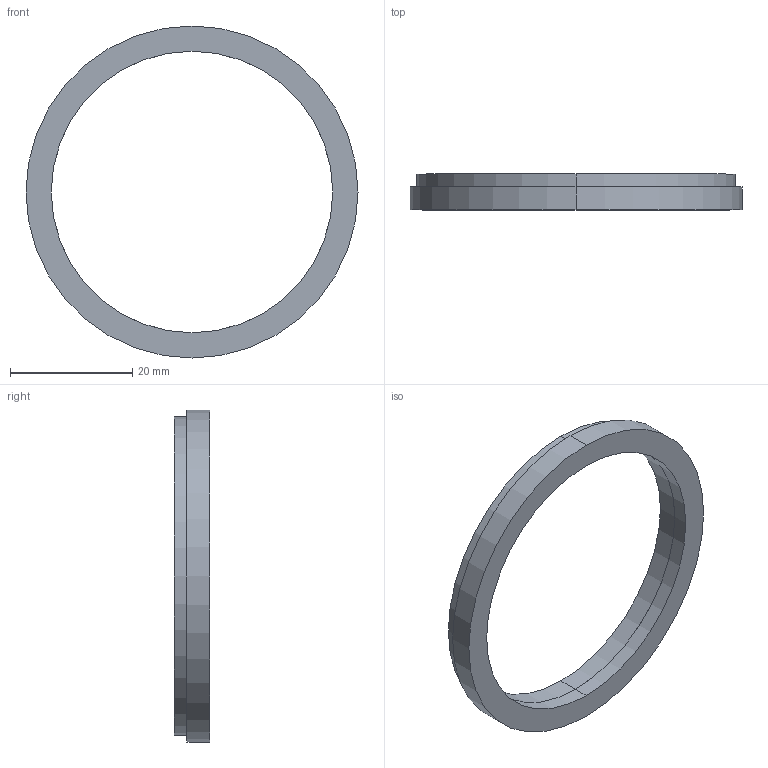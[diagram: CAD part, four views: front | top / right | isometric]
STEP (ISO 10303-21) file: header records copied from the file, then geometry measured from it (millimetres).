
FILE_DESCRIPTION (( 'STEP AP214' ), '1' );
FILE_NAME ('SD52-46.STEP', '2019-04-03T14:57:48', ( '' ), ( '' ), 'SwSTEP 2.0', 'SolidWorks 2019', '' );
FILE_SCHEMA (( 'AUTOMOTIVE_DESIGN' ));
Length unit declared in the file: millimetre
Products named in the file (1): SD52-46
Bounding box: 54.25 x 5.85 x 54.25 mm (x, y, z)
Volume: 3408.1 mm3; surface area: 3128.1 mm2
Topology: 1 solids, 1 shells, 12 faces, 24 edges, 16 vertices
Faces by surface type: cylinder 8, plane 4
Entity records: 362 total; most frequent: DIRECTION 66, CARTESIAN_POINT 53, ORIENTED_EDGE 48, AXIS2_PLACEMENT_3D 29, EDGE_CURVE 24, VERTEX_POINT 16, EDGE_LOOP 16, CIRCLE 16
